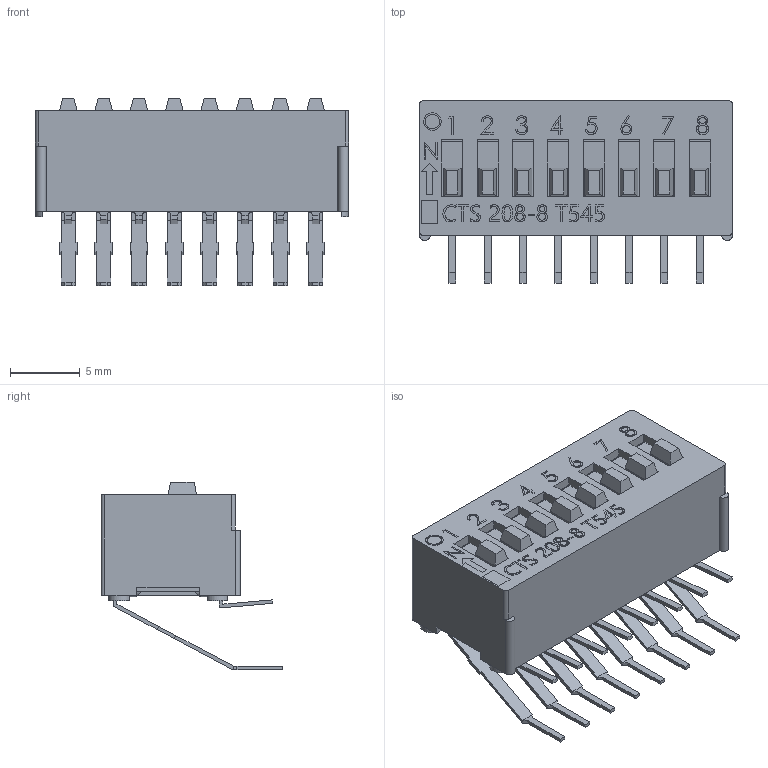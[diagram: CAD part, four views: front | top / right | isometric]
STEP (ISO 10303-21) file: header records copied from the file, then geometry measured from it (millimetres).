
FILE_DESCRIPTION (( 'STEP AP214' ), '1' );
FILE_NAME ('208-8RA.STEP', '2019-05-28T03:04:41', ( '' ), ( '' ), 'SwSTEP 2.0', 'SolidWorks 2019', '' );
FILE_SCHEMA (( 'AUTOMOTIVE_DESIGN' ));
Length unit declared in the file: millimetre
Products named in the file (4): 208-8RA; 208-8RA cover; 206-8RA pole assembly; 206-56-014-35-01
Assembly tree (10 placements, depth 2):
  208-8RA
    208-8RA cover
    206-56-014-35-01  x8
    206-8RA pole assembly
Bounding box: 22.5 x 13.07 x 13.47 mm (x, y, z)
Volume: 1002 mm3; surface area: 3184 mm2
Topology: 10 solids, 10 shells, 982 faces, 2667 edges, 1764 vertices
Faces by surface type: plane 730, bspline 148, cylinder 104
Entity records: 34048 total; most frequent: CARTESIAN_POINT 13359, ORIENTED_EDGE 3920, DIRECTION 2920, EDGE_CURVE 1960, LINE 1562, VECTOR 1562, VERTEX_POINT 1302, EDGE_LOOP 786
